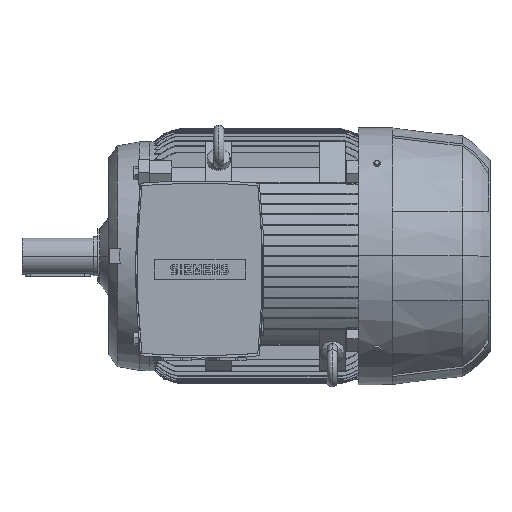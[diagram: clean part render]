
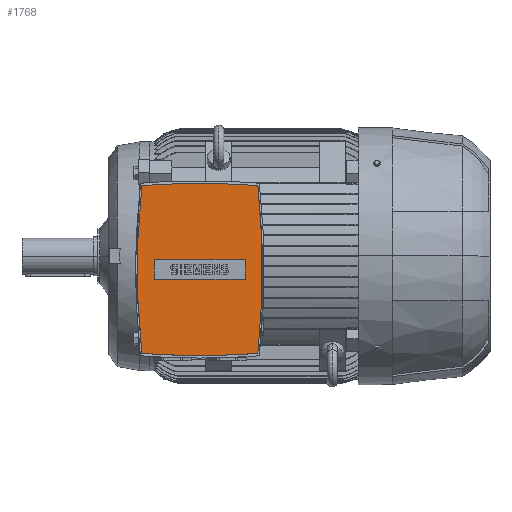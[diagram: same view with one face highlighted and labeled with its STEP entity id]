
A CAD part, top view. The second image highlights one B-rep face of the part: STEP entity #1768.
In plain terms, the highlighted planar face has unit normal (0, 0, 1).
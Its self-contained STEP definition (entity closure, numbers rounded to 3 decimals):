
#1768=ADVANCED_FACE('',(#4745,#4746),#4747,.T.);
#4745=FACE_BOUND('',#8959,.T.);
#4746=FACE_OUTER_BOUND('',#8960,.T.);
#4747=PLANE('',#8961);
#8959=EDGE_LOOP('',(#14505,#14506,#14507,#14508));
#8960=EDGE_LOOP('',(#14509,#14510,#14511,#14512,#14513,#14514));
#8961=AXIS2_PLACEMENT_3D('',#14515,#14516,#14517);
#14505=ORIENTED_EDGE('',*,*,#26963,.T.);
#14506=ORIENTED_EDGE('',*,*,#26960,.T.);
#14507=ORIENTED_EDGE('',*,*,#26957,.T.);
#14508=ORIENTED_EDGE('',*,*,#26954,.T.);
#14509=ORIENTED_EDGE('',*,*,#27003,.T.);
#14510=ORIENTED_EDGE('',*,*,#27004,.T.);
#14511=ORIENTED_EDGE('',*,*,#26552,.T.);
#14512=ORIENTED_EDGE('',*,*,#27005,.T.);
#14513=ORIENTED_EDGE('',*,*,#26545,.T.);
#14514=ORIENTED_EDGE('',*,*,#27006,.T.);
#14515=CARTESIAN_POINT('',(77.0,-21.0,315.0));
#14516=DIRECTION('',(0.0,0.0,1.0));
#14517=DIRECTION('',(0.0,-1.0,0.0));
#26545=EDGE_CURVE('',#32336,#32333,#32337,.T.);
#26552=EDGE_CURVE('',#32343,#32347,#32349,.T.);
#26954=EDGE_CURVE('',#32952,#32950,#32953,.T.);
#26957=EDGE_CURVE('',#32956,#32952,#32957,.T.);
#26960=EDGE_CURVE('',#32960,#32956,#32961,.T.);
#26963=EDGE_CURVE('',#32950,#32960,#32964,.T.);
#27003=EDGE_CURVE('',#33016,#33017,#33018,.T.);
#27004=EDGE_CURVE('',#33017,#32343,#33019,.T.);
#27005=EDGE_CURVE('',#32347,#32336,#33020,.T.);
#27006=EDGE_CURVE('',#32333,#33016,#33021,.T.);
#32333=VERTEX_POINT('',#42643);
#32336=VERTEX_POINT('',#42647);
#32337=CIRCLE('',#42648,1217.46);
#32343=VERTEX_POINT('',#42655);
#32347=VERTEX_POINT('',#42660);
#32349=CIRCLE('',#42663,1217.46);
#32950=VERTEX_POINT('',#43595);
#32952=VERTEX_POINT('',#43598);
#32953=LINE('',#43599,#43600);
#32956=VERTEX_POINT('',#43604);
#32957=LINE('',#43605,#43606);
#32960=VERTEX_POINT('',#43610);
#32961=LINE('',#43611,#43612);
#32964=LINE('',#43616,#43617);
#33016=VERTEX_POINT('',#43691);
#33017=VERTEX_POINT('',#43692);
#33018=CIRCLE('',#43693,1170.4);
#33019=CIRCLE('',#43694,1217.46);
#33020=CIRCLE('',#43695,1170.4);
#33021=CIRCLE('',#43696,1217.46);
#42643=CARTESIAN_POINT('',(77.,111.5,315.0));
#42647=CARTESIAN_POINT('',(166.345,108.217,315.0));
#42648=AXIS2_PLACEMENT_3D('',#65044,#65045,#65046);
#42655=CARTESIAN_POINT('',(77.,-153.5,315.0));
#42660=CARTESIAN_POINT('',(166.345,-150.217,315.0));
#42663=AXIS2_PLACEMENT_3D('',#65056,#65057,#65058);
#43595=CARTESIAN_POINT('',(147.0,-36.0,315.0));
#43598=CARTESIAN_POINT('',(147.0,-6.0,315.0));
#43599=CARTESIAN_POINT('',(147.0,-21.0,315.0));
#43600=VECTOR('',#65437,1.0);
#43604=CARTESIAN_POINT('',(7.0,-6.0,315.0));
#43605=CARTESIAN_POINT('',(77.0,-6.0,315.0));
#43606=VECTOR('',#65439,1.0);
#43610=CARTESIAN_POINT('',(7.0,-36.0,315.0));
#43611=CARTESIAN_POINT('',(7.0,-21.0,315.0));
#43612=VECTOR('',#65441,1.0);
#43616=CARTESIAN_POINT('',(77.0,-36.0,315.0));
#43617=VECTOR('',#65443,1.0);
#43691=CARTESIAN_POINT('',(-12.345,108.217,315.0));
#43692=CARTESIAN_POINT('',(-12.345,-150.217,315.0));
#43693=AXIS2_PLACEMENT_3D('',#65475,#65476,#65477);
#43694=AXIS2_PLACEMENT_3D('',#65478,#65479,#65480);
#43695=AXIS2_PLACEMENT_3D('',#65481,#65482,#65483);
#43696=AXIS2_PLACEMENT_3D('',#65484,#65485,#65486);
#65044=CARTESIAN_POINT('',(77.0,-1105.96,315.0));
#65045=DIRECTION('',(0.0,-0.0,1.0));
#65046=DIRECTION('',(0.0,1.0,0.0));
#65056=CARTESIAN_POINT('',(77.0,1063.96,315.0));
#65057=DIRECTION('',(0.0,-0.0,1.0));
#65058=DIRECTION('',(0.0,1.0,0.0));
#65437=DIRECTION('',(0.0,-1.0,0.0));
#65439=DIRECTION('',(1.0,0.0,-0.0));
#65441=DIRECTION('',(0.0,1.0,0.0));
#65443=DIRECTION('',(-1.0,0.0,0.0));
#65475=CARTESIAN_POINT('',(1150.9,-21.0,315.0));
#65476=DIRECTION('',(0.0,-0.0,1.0));
#65477=DIRECTION('',(0.0,1.0,0.0));
#65478=CARTESIAN_POINT('',(77.0,1063.96,315.0));
#65479=DIRECTION('',(0.0,-0.0,1.0));
#65480=DIRECTION('',(0.0,1.0,0.0));
#65481=CARTESIAN_POINT('',(-996.9,-21.0,315.0));
#65482=DIRECTION('',(0.0,-0.0,1.0));
#65483=DIRECTION('',(0.0,1.0,0.0));
#65484=CARTESIAN_POINT('',(77.0,-1105.96,315.0));
#65485=DIRECTION('',(0.0,-0.0,1.0));
#65486=DIRECTION('',(0.0,1.0,0.0));
